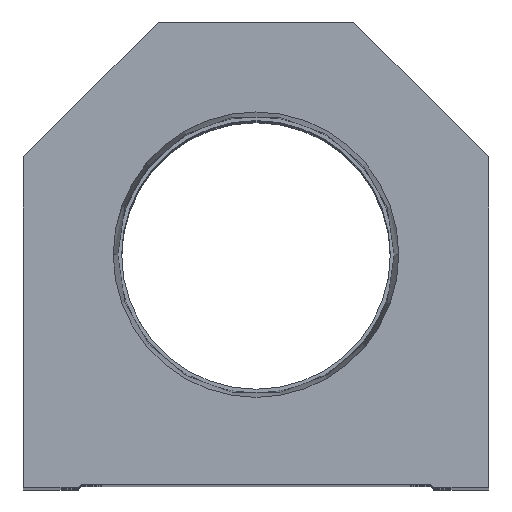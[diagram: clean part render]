
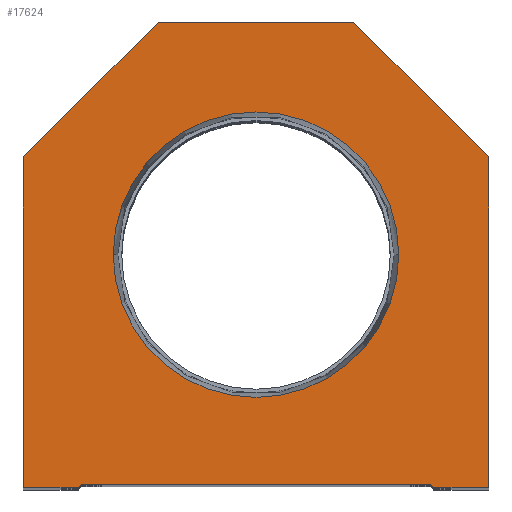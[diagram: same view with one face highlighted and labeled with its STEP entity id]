
A CAD part, top view. The second image highlights one B-rep face of the part: STEP entity #17624.
In plain terms, the highlighted planar face has unit normal (0, 0, 1).
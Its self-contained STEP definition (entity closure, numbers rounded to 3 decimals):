
#332 = EDGE_CURVE ( 'NONE', #3134, #12143, #6032, .T. ) ;
#392 = ORIENTED_EDGE ( 'NONE', *, *, #11223, .T. ) ;
#1051 = DIRECTION ( 'NONE',  ( 1., 0., 0. ) ) ;
#1266 = VERTEX_POINT ( 'NONE', #16259 ) ;
#1390 = EDGE_CURVE ( 'NONE', #6439, #13225, #5119, .T. ) ;
#1500 = CIRCLE ( 'NONE', #2271, 23.374 ) ;
#1708 = CARTESIAN_POINT ( 'NONE',  ( 38.1, 54.1, 0. ) ) ;
#1717 = ORIENTED_EDGE ( 'NONE', *, *, #16468, .T. ) ;
#1741 = ORIENTED_EDGE ( 'NONE', *, *, #17871, .F. ) ;
#1744 = CARTESIAN_POINT ( 'NONE',  ( 28.6, 0.5, 0. ) ) ;
#2096 = LINE ( 'NONE', #13388, #23493 ) ;
#2119 = EDGE_CURVE ( 'NONE', #1266, #6439, #22133, .T. ) ;
#2170 = ORIENTED_EDGE ( 'NONE', *, *, #19816, .T. ) ;
#2271 = AXIS2_PLACEMENT_3D ( 'NONE', #19462, #6540, #10026 ) ;
#2286 = VECTOR ( 'NONE', #5236, 1000. ) ;
#2755 = AXIS2_PLACEMENT_3D ( 'NONE', #19757, #8444, #2875 ) ;
#2875 = DIRECTION ( 'NONE',  ( 1., 0., 0. ) ) ;
#3134 = VERTEX_POINT ( 'NONE', #19023 ) ;
#3449 = EDGE_CURVE ( 'NONE', #16383, #22207, #1500, .T. ) ;
#3980 = DIRECTION ( 'NONE',  ( -1., 0., 0. ) ) ;
#4152 = CARTESIAN_POINT ( 'NONE',  ( -16., 76.2, 0. ) ) ;
#4232 = CARTESIAN_POINT ( 'NONE',  ( 16., 76.2, 0. ) ) ;
#4395 = ORIENTED_EDGE ( 'NONE', *, *, #332, .T. ) ;
#4524 = ORIENTED_EDGE ( 'NONE', *, *, #14122, .T. ) ;
#4864 = ORIENTED_EDGE ( 'NONE', *, *, #3449, .F. ) ;
#5091 = VECTOR ( 'NONE', #14379, 1000. ) ;
#5119 = LINE ( 'NONE', #1708, #21974 ) ;
#5236 = DIRECTION ( 'NONE',  ( -0.707, -0.707, 0. ) ) ;
#5280 = LINE ( 'NONE', #10856, #5091 ) ;
#5511 = DIRECTION ( 'NONE',  ( 1., 0., 0. ) ) ;
#5920 = CARTESIAN_POINT ( 'NONE',  ( -28.6, 0.5, 0. ) ) ;
#5993 = ORIENTED_EDGE ( 'NONE', *, *, #23971, .T. ) ;
#6032 = LINE ( 'NONE', #13048, #24108 ) ;
#6252 = CARTESIAN_POINT ( 'NONE',  ( -23.374, 38.1, 0. ) ) ;
#6439 = VERTEX_POINT ( 'NONE', #24207 ) ;
#6467 = FACE_BOUND ( 'NONE', #19363, .T. ) ;
#6472 = CARTESIAN_POINT ( 'NONE',  ( -38.1, 0., 0. ) ) ;
#6540 = DIRECTION ( 'NONE',  ( 0., 0., 1. ) ) ;
#6677 = CARTESIAN_POINT ( 'NONE',  ( -29.1, 0., 0. ) ) ;
#7116 = CIRCLE ( 'NONE', #9480, 23.374 ) ;
#8425 = DIRECTION ( 'NONE',  ( 0.707, 0.707, 0. ) ) ;
#8444 = DIRECTION ( 'NONE',  ( 0., 0., 1. ) ) ;
#8451 = DIRECTION ( 'NONE',  ( 0., -1., 0. ) ) ;
#8815 = ORIENTED_EDGE ( 'NONE', *, *, #22850, .T. ) ;
#9480 = AXIS2_PLACEMENT_3D ( 'NONE', #17855, #10374, #1051 ) ;
#9670 = LINE ( 'NONE', #4232, #14190 ) ;
#10026 = DIRECTION ( 'NONE',  ( 1., 0., 0. ) ) ;
#10276 = LINE ( 'NONE', #17752, #10623 ) ;
#10374 = DIRECTION ( 'NONE',  ( 0., 0., 1. ) ) ;
#10623 = VECTOR ( 'NONE', #8425, 1000. ) ;
#10856 = CARTESIAN_POINT ( 'NONE',  ( 14.55, 14.55, 0. ) ) ;
#11223 = EDGE_CURVE ( 'NONE', #17739, #1266, #22358, .T. ) ;
#11360 = VERTEX_POINT ( 'NONE', #15445 ) ;
#11594 = CARTESIAN_POINT ( 'NONE',  ( 29.1, 0., 0. ) ) ;
#12143 = VERTEX_POINT ( 'NONE', #6677 ) ;
#13014 = CARTESIAN_POINT ( 'NONE',  ( 28.6, 0., 0. ) ) ;
#13048 = CARTESIAN_POINT ( 'NONE',  ( -28.6, 0., 0. ) ) ;
#13225 = VERTEX_POINT ( 'NONE', #20522 ) ;
#13388 = CARTESIAN_POINT ( 'NONE',  ( -28.6, 0.5, 0. ) ) ;
#13535 = EDGE_LOOP ( 'NONE', ( #4395, #1717, #4524, #8815, #392, #16323, #21137, #5993, #2170, #20126 ) ) ;
#14122 = EDGE_CURVE ( 'NONE', #18775, #24137, #2096, .T. ) ;
#14190 = VECTOR ( 'NONE', #3980, 1000. ) ;
#14263 = DIRECTION ( 'NONE',  ( 0., 1., 0. ) ) ;
#14379 = DIRECTION ( 'NONE',  ( 0.707, -0.707, 0. ) ) ;
#15288 = VERTEX_POINT ( 'NONE', #4152 ) ;
#15445 = CARTESIAN_POINT ( 'NONE',  ( -38.1, 54.1, 0. ) ) ;
#15594 = EDGE_CURVE ( 'NONE', #11360, #3134, #23314, .T. ) ;
#16259 = CARTESIAN_POINT ( 'NONE',  ( 38.1, 0., 0. ) ) ;
#16323 = ORIENTED_EDGE ( 'NONE', *, *, #2119, .T. ) ;
#16383 = VERTEX_POINT ( 'NONE', #18986 ) ;
#16468 = EDGE_CURVE ( 'NONE', #12143, #18775, #10276, .T. ) ;
#16491 = CARTESIAN_POINT ( 'NONE',  ( 38.1, 0., 0. ) ) ;
#16930 = LINE ( 'NONE', #17042, #2286 ) ;
#17042 = CARTESIAN_POINT ( 'NONE',  ( -38.1, 54.1, 0. ) ) ;
#17103 = VECTOR ( 'NONE', #5511, 1000. ) ;
#17342 = DIRECTION ( 'NONE',  ( 1., 0., 0. ) ) ;
#17624 = ADVANCED_FACE ( 'NONE', ( #6467, #21594 ), #23416, .T. ) ;
#17739 = VERTEX_POINT ( 'NONE', #11594 ) ;
#17752 = CARTESIAN_POINT ( 'NONE',  ( -14.55, 14.55, 0. ) ) ;
#17855 = CARTESIAN_POINT ( 'NONE',  ( 0., 38.1, 0. ) ) ;
#17871 = EDGE_CURVE ( 'NONE', #22207, #16383, #7116, .T. ) ;
#18036 = VECTOR ( 'NONE', #8451, 1000. ) ;
#18775 = VERTEX_POINT ( 'NONE', #5920 ) ;
#18986 = CARTESIAN_POINT ( 'NONE',  ( 23.374, 38.1, 0. ) ) ;
#19023 = CARTESIAN_POINT ( 'NONE',  ( -38.1, 0., 0. ) ) ;
#19363 = EDGE_LOOP ( 'NONE', ( #4864, #1741 ) ) ;
#19462 = CARTESIAN_POINT ( 'NONE',  ( 0., 38.1, 0. ) ) ;
#19757 = CARTESIAN_POINT ( 'NONE',  ( 0., 0., 0. ) ) ;
#19816 = EDGE_CURVE ( 'NONE', #15288, #11360, #16930, .T. ) ;
#20126 = ORIENTED_EDGE ( 'NONE', *, *, #15594, .T. ) ;
#20522 = CARTESIAN_POINT ( 'NONE',  ( 16., 76.2, 0. ) ) ;
#21137 = ORIENTED_EDGE ( 'NONE', *, *, #1390, .T. ) ;
#21594 = FACE_OUTER_BOUND ( 'NONE', #13535, .T. ) ;
#21974 = VECTOR ( 'NONE', #22202, 1000. ) ;
#22133 = LINE ( 'NONE', #16491, #23304 ) ;
#22202 = DIRECTION ( 'NONE',  ( -0.707, 0.707, 0. ) ) ;
#22207 = VERTEX_POINT ( 'NONE', #6252 ) ;
#22358 = LINE ( 'NONE', #13014, #17103 ) ;
#22850 = EDGE_CURVE ( 'NONE', #24137, #17739, #5280, .T. ) ;
#23112 = DIRECTION ( 'NONE',  ( 1., 0., 0. ) ) ;
#23304 = VECTOR ( 'NONE', #14263, 1000. ) ;
#23314 = LINE ( 'NONE', #6472, #18036 ) ;
#23416 = PLANE ( 'NONE',  #2755 ) ;
#23493 = VECTOR ( 'NONE', #23112, 1000. ) ;
#23971 = EDGE_CURVE ( 'NONE', #13225, #15288, #9670, .T. ) ;
#24108 = VECTOR ( 'NONE', #17342, 1000. ) ;
#24137 = VERTEX_POINT ( 'NONE', #1744 ) ;
#24207 = CARTESIAN_POINT ( 'NONE',  ( 38.1, 54.1, 0. ) ) ;
